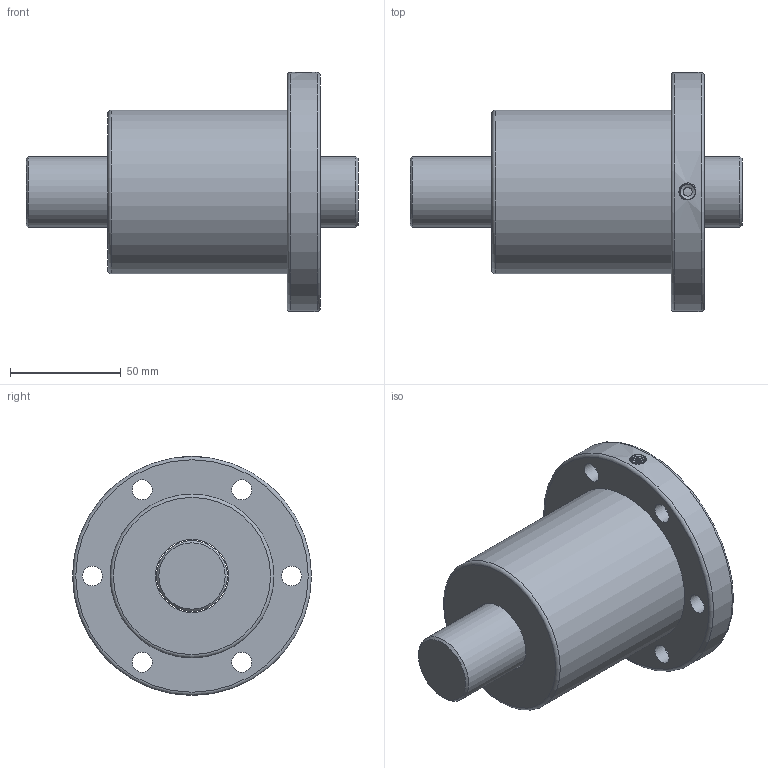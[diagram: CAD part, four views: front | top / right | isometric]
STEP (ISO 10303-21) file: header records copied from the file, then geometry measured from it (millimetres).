
FILE_DESCRIPTION (( 'STEP AP203' ), '1' );
FILE_NAME ('SFV03210-4.8.STEP', '2023-08-16T03:10:05', ( '' ), ( '' ), 'SwSTEP 2.0', 'SolidWorks 2022', '' );
FILE_SCHEMA (( 'CONFIG_CONTROL_DESIGN' ));
Length unit declared in the file: millimetre
Products named in the file (1): SFV03210-4.8
Bounding box: 150 x 108 x 108 mm (x, y, z)
Volume: 511853.7 mm3; surface area: 70947.8 mm2
Topology: 2 solids, 2 shells, 46 faces, 91 edges, 59 vertices
Faces by surface type: cylinder 23, plane 15, cone 3, torus 3, bspline 2
Full cylindrical faces by diameter (mm): 4 x1, 6.917 x1, 9 x6, 14 x6, 32 x1, 33 x2, 43 x2, 74 x1, 108 x1
Entity records: 2963 total; most frequent: CARTESIAN_POINT 2027, DIRECTION 186, ORIENTED_EDGE 118, EDGE_LOOP 99, AXIS2_PLACEMENT_3D 93, FACE_OUTER_BOUND 70, EDGE_CURVE 59, VERTEX_POINT 54
